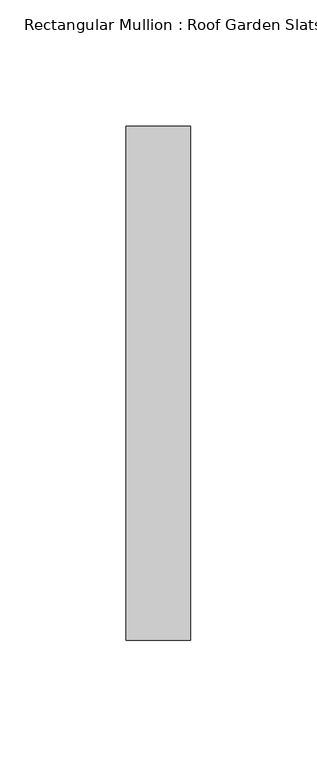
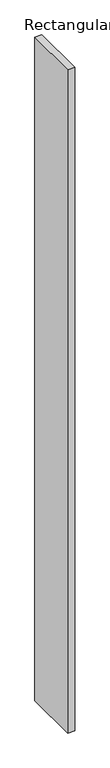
"""IFC4 building model written with IfcOpenShell, lengths in millimetres: member geometry, Rectangular Mullion : Roof Garden Slats."""

from ifc_helpers import new_model, si_unit, frame, origin, place, context, project, spatial, polyline, outline, extrude, source, transform, mapped, element, save


def rectangular_mullion_roof_garden_slats_7a1ca4fd(model_context):
    return source(origin(), model_context, "Body", "SweptSolid", [
        extrude(outline(polyline([(12.7, 139.7), (12.7, -63.5), (-12.7, -63.5), (-12.7, 139.7), (12.7, 139.7)])), frame((0.0, 0.0, -2519.7630869), z_axis=(0.0, 0.0, 1.0), x_axis=(1.0, 0.0, 0.0)), (0.0, 0.0, 1.0), 2519.7630869),
    ])


if __name__ == "__main__":
    model = new_model("IFC4")
    model_context = context("Model", 3, world=origin())
    ifc_project = project(units=[si_unit("LENGTHUNIT", "METRE", prefix="MILLI")], contexts=[model_context])
    site = spatial("IfcSite", under=ifc_project)
    building = spatial("IfcBuilding", under=site)
    placement = place(None, origin())
    rectangular_mullion_roof_garden_slats_shape = rectangular_mullion_roof_garden_slats_7a1ca4fd(model_context)
    element("IfcMember", 1, ObjectType="Rectangular Mullion : Roof Garden Slats", at=placement, inside=building, context=model_context, shape_type="MappedRepresentation", body=[
        mapped(rectangular_mullion_roof_garden_slats_shape, transform((0.0, 0.0, 0.0), x_axis=(1.0, 0.0, 0.0), y_axis=(0.0, 1.0, 0.0), z_axis=(0.0, 0.0, 1.0))),
    ])
    save(model, "model.ifc")
